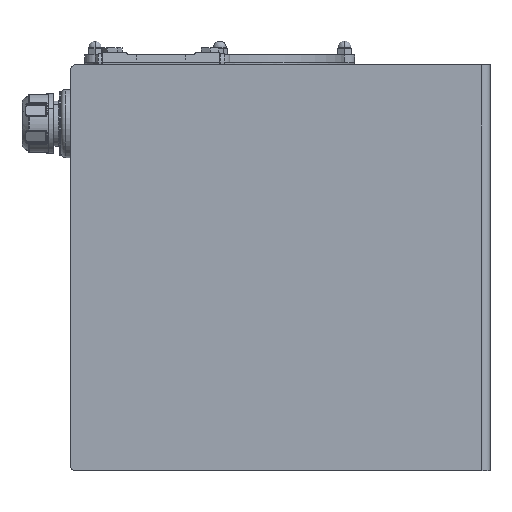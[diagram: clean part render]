
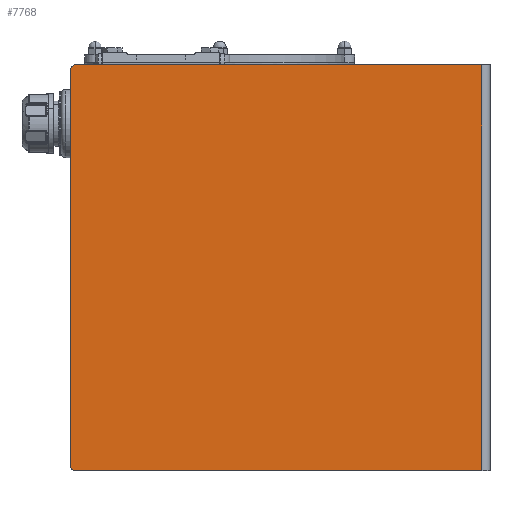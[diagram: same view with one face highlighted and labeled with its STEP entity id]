
A CAD part, left-side view. The second image highlights one B-rep face of the part: STEP entity #7768.
In plain terms, the highlighted planar face has unit normal (-1, 0, 0) as drawn and (0, 0, 1) by its records, which use the part's own axes.
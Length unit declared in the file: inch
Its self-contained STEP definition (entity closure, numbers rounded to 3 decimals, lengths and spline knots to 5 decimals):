
#238 = ORIENTED_EDGE ( 'NONE', *, *, #12462, .T. ) ;
#1410 = EDGE_CURVE ( 'NONE', #27031, #2992, #14776, .T. ) ;
#1536 = CIRCLE ( 'NONE', #5059, 0.25 ) ;
#1776 = VERTEX_POINT ( 'NONE', #7818 ) ;
#1964 = DIRECTION ( 'NONE',  ( -1., 0., 0. ) ) ;
#2341 = DIRECTION ( 'NONE',  ( 0., 1., 0. ) ) ;
#2992 = VERTEX_POINT ( 'NONE', #13517 ) ;
#3401 = EDGE_CURVE ( 'NONE', #18880, #5276, #29672, .T. ) ;
#3787 = ORIENTED_EDGE ( 'NONE', *, *, #7719, .T. ) ;
#3882 = ORIENTED_EDGE ( 'NONE', *, *, #1410, .T. ) ;
#4188 = EDGE_LOOP ( 'NONE', ( #238, #25696, #5160, #10594, #3787, #3882 ) ) ;
#5059 = AXIS2_PLACEMENT_3D ( 'NONE', #12812, #18100, #1964 ) ;
#5160 = ORIENTED_EDGE ( 'NONE', *, *, #19783, .T. ) ;
#5276 = VERTEX_POINT ( 'NONE', #28740 ) ;
#6124 = CARTESIAN_POINT ( 'NONE',  ( -10.375, -10.71875, 0. ) ) ;
#7719 = EDGE_CURVE ( 'NONE', #5276, #27031, #10352, .T. ) ;
#7768 = ADVANCED_FACE ( 'NONE', ( #21021 ), #27137, .F. ) ;
#7818 = CARTESIAN_POINT ( 'NONE',  ( 10.375, 10.46875, 0. ) ) ;
#9681 = DIRECTION ( 'NONE',  ( -1., 0., 0. ) ) ;
#9950 = DIRECTION ( 'NONE',  ( -1., 0., 0. ) ) ;
#10352 = LINE ( 'NONE', #6124, #29548 ) ;
#10594 = ORIENTED_EDGE ( 'NONE', *, *, #3401, .T. ) ;
#11081 = EDGE_CURVE ( 'NONE', #1776, #27054, #1536, .T. ) ;
#11876 = CARTESIAN_POINT ( 'NONE',  ( 0., 0., 0. ) ) ;
#11882 = DIRECTION ( 'NONE',  ( 1., 0., 0. ) ) ;
#12462 = EDGE_CURVE ( 'NONE', #2992, #1776, #17081, .T. ) ;
#12812 = CARTESIAN_POINT ( 'NONE',  ( 10.125, 10.46875, 0. ) ) ;
#13517 = CARTESIAN_POINT ( 'NONE',  ( 10.375, -10.28945, 0. ) ) ;
#13550 = CARTESIAN_POINT ( 'NONE',  ( -10.375, -10.28945, 0. ) ) ;
#14776 = LINE ( 'NONE', #22407, #33077 ) ;
#17081 = LINE ( 'NONE', #23494, #33759 ) ;
#18100 = DIRECTION ( 'NONE',  ( 0., 0., 1. ) ) ;
#18365 = CARTESIAN_POINT ( 'NONE',  ( 10.125, 10.71875, 0. ) ) ;
#18880 = VERTEX_POINT ( 'NONE', #31567 ) ;
#19414 = AXIS2_PLACEMENT_3D ( 'NONE', #20124, #22767, #9681 ) ;
#19783 = EDGE_CURVE ( 'NONE', #27054, #18880, #24358, .T. ) ;
#20124 = CARTESIAN_POINT ( 'NONE',  ( -10.125, 10.46875, 0. ) ) ;
#20322 = AXIS2_PLACEMENT_3D ( 'NONE', #11876, #25225, #27703 ) ;
#21021 = FACE_OUTER_BOUND ( 'NONE', #4188, .T. ) ;
#21076 = VECTOR ( 'NONE', #9950, 39.37008 ) ;
#22407 = CARTESIAN_POINT ( 'NONE',  ( -10.375, -10.28945, 0. ) ) ;
#22767 = DIRECTION ( 'NONE',  ( 0., 0., 1. ) ) ;
#23494 = CARTESIAN_POINT ( 'NONE',  ( 10.375, -10.71875, 0. ) ) ;
#24358 = LINE ( 'NONE', #28324, #21076 ) ;
#25225 = DIRECTION ( 'NONE',  ( 0., 0., -1. ) ) ;
#25696 = ORIENTED_EDGE ( 'NONE', *, *, #11081, .T. ) ;
#27031 = VERTEX_POINT ( 'NONE', #13550 ) ;
#27034 = DIRECTION ( 'NONE',  ( 0., -1., 0. ) ) ;
#27054 = VERTEX_POINT ( 'NONE', #18365 ) ;
#27137 = PLANE ( 'NONE',  #20322 ) ;
#27703 = DIRECTION ( 'NONE',  ( -1., 0., 0. ) ) ;
#28324 = CARTESIAN_POINT ( 'NONE',  ( -10.375, 10.71875, 0. ) ) ;
#28740 = CARTESIAN_POINT ( 'NONE',  ( -10.375, 10.46875, 0. ) ) ;
#29548 = VECTOR ( 'NONE', #27034, 39.37008 ) ;
#29672 = CIRCLE ( 'NONE', #19414, 0.25 ) ;
#31567 = CARTESIAN_POINT ( 'NONE',  ( -10.125, 10.71875, 0. ) ) ;
#33077 = VECTOR ( 'NONE', #11882, 39.37008 ) ;
#33759 = VECTOR ( 'NONE', #2341, 39.37008 ) ;
